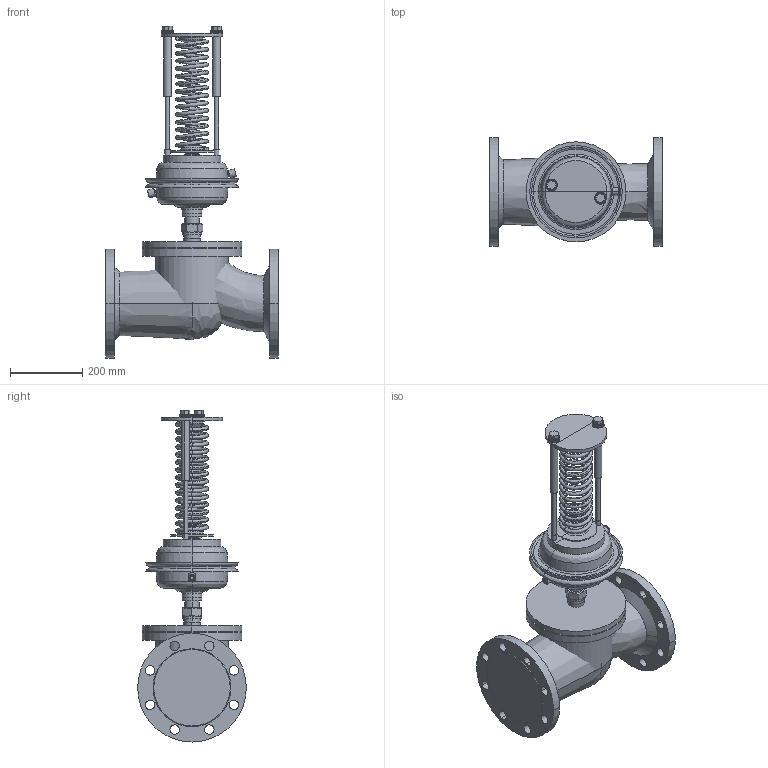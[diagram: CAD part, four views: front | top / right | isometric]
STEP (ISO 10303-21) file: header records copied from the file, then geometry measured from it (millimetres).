
FILE_DESCRIPTION(/* description */ (''),/* implementation_level */ '2;1');
FILE_NAME(/* name */ 'ETM_Регулятордавления_УРРД_НЗ_РД_DN150_PN25 0.01—0.07 МПа',/* time_stamp */ '2026-04-27T12:34:26+03:00',/* author */ (''),/* organization */ (''),/* preprocessor_version */ 'ST-DEVELOPER v20',/* originating_system */ '',/* authorisation */ '');
FILE_SCHEMA (('AP242_MANAGED_MODEL_BASED_3D_ENGINEERING_MIM_LF { 1 0 10303 442 1 1 4 }'));
Length unit declared in the file: millimetre
Products named in the file (13): TopLevelAssembly; Выдавливание; Переход; Выдавливание_
1; Переход_1; Переход_2; Переход_3; Объемная геометрия 
присоединена; Выдавливание_
2; Выдавливание_
3; Объемная геометрия 
присоединена_1; Выдавливание_
4; Пружина желтая
Assembly tree (12 placements, depth 2):
  TopLevelAssembly
    Выдавливание
    Переход
    Выдавливание_
1
    Переход_1
    Переход_2
    Переход_3
    Объемная геометрия 
присоединена
    Выдавливание_
2
    Выдавливание_
3
    Объемная геометрия 
присоединена_1
    Выдавливание_
4
    Пружина желтая
Bounding box: 480 x 300 x 916.46 mm (x, y, z)
Volume: 28033902.3 mm3; surface area: 1895822 mm2
Topology: 33 solids, 33 shells, 522 faces, 1078 edges, 560 vertices
Faces by surface type: bspline 191, plane 183, cylinder 138, cone 10
Entity records: 17101 total; most frequent: CARTESIAN_POINT 5903, DIRECTION 2372, ORIENTED_EDGE 2064, EDGE_CURVE 1032, AXIS2_PLACEMENT_3D 1008, CIRCLE 651, VERTEX_POINT 560, EDGE_LOOP 558
